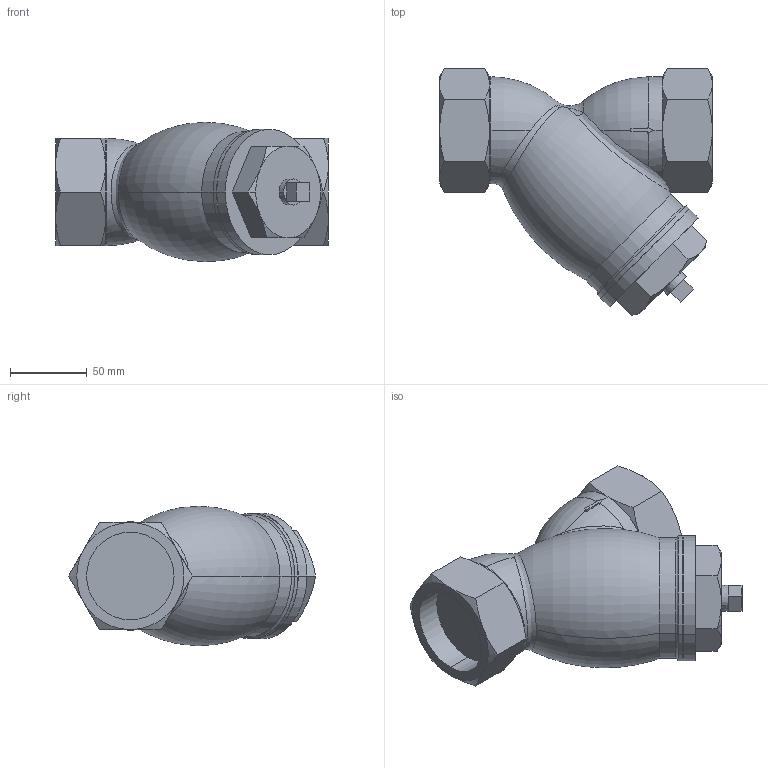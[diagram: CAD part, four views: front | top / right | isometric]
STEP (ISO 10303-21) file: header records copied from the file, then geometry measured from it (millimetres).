
FILE_DESCRIPTION (( 'STEP AP203' ), '1' );
FILE_NAME ('SY-6 50A.STEP', '2026-05-18T02:01:24', ( '' ), ( '' ), 'SwSTEP 2.0', 'SolidWorks 2026', '' );
FILE_SCHEMA (( 'CONFIG_CONTROL_DESIGN' ));
Length unit declared in the file: millimetre
Products named in the file (1): SY-6 50A
Bounding box: 178 x 161.3 x 90.99 mm (x, y, z)
Volume: 1073552.9 mm3; surface area: 82921.2 mm2
Topology: 1 solids, 1 shells, 113 faces, 264 edges, 160 vertices
Faces by surface type: plane 48, cone 34, cylinder 17, torus 11, bspline 3
Entity records: 4633 total; most frequent: CARTESIAN_POINT 2120, ORIENTED_EDGE 528, DIRECTION 477, EDGE_CURVE 264, AXIS2_PLACEMENT_3D 197, VERTEX_POINT 160, EDGE_LOOP 120, FACE_OUTER_BOUND 113
